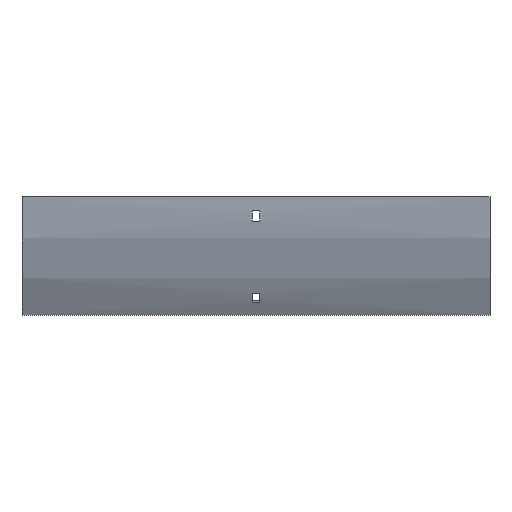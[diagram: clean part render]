
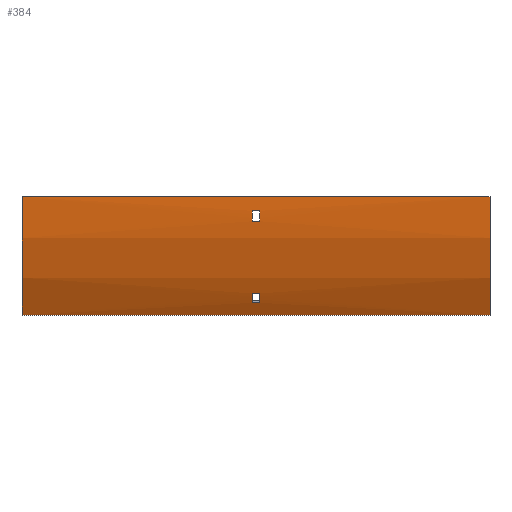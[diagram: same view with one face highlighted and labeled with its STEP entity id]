
A CAD part, front view. The second image highlights one B-rep face of the part: STEP entity #384.
In plain terms, the highlighted cylindrical face has radius 204 mm (diameter 408 mm), a partial arc.
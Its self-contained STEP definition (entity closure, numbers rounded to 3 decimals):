
#7 = DIRECTION ( 'NONE',  ( 1., 0., 0. ) ) ;
#31 = VERTEX_POINT ( 'NONE', #715 ) ;
#43 = ORIENTED_EDGE ( 'NONE', *, *, #1207, .F. ) ;
#51 = EDGE_CURVE ( 'NONE', #799, #109, #1513, .T. ) ;
#59 = DIRECTION ( 'NONE',  ( -1., 0., 0. ) ) ;
#71 = CARTESIAN_POINT ( 'NONE',  ( -3.25, 100., 0. ) ) ;
#107 = EDGE_CURVE ( 'NONE', #657, #799, #836, .T. ) ;
#109 = VERTEX_POINT ( 'NONE', #243 ) ;
#125 = ORIENTED_EDGE ( 'NONE', *, *, #513, .F. ) ;
#129 = CARTESIAN_POINT ( 'NONE',  ( 202., -82.363, -91.431 ) ) ;
#133 = VECTOR ( 'NONE', #1109, 1000. ) ;
#171 = AXIS2_PLACEMENT_3D ( 'NONE', #1124, #363, #896 ) ;
#185 = VERTEX_POINT ( 'NONE', #909 ) ;
#203 = CIRCLE ( 'NONE', #1236, 204. ) ;
#221 = CARTESIAN_POINT ( 'NONE',  ( -3.25, -86.231, -83.272 ) ) ;
#243 = CARTESIAN_POINT ( 'NONE',  ( -202., -76.669, -102. ) ) ;
#263 = VERTEX_POINT ( 'NONE', #434 ) ;
#273 = ORIENTED_EDGE ( 'NONE', *, *, #1521, .T. ) ;
#284 = VECTOR ( 'NONE', #1166, 1000. ) ;
#299 = AXIS2_PLACEMENT_3D ( 'NONE', #1671, #7, #925 ) ;
#316 = ORIENTED_EDGE ( 'NONE', *, *, #1089, .T. ) ;
#317 = DIRECTION ( 'NONE',  ( 1., 0., 0. ) ) ;
#321 = FACE_BOUND ( 'NONE', #654, .T. ) ;
#351 = DIRECTION ( 'NONE',  ( 0., 0., -1. ) ) ;
#363 = DIRECTION ( 'NONE',  ( 1., 0., 0. ) ) ;
#380 = ORIENTED_EDGE ( 'NONE', *, *, #867, .T. ) ;
#384 = ADVANCED_FACE ( 'NONE', ( #471, #321, #1221 ), #1387, .T. ) ;
#420 = CARTESIAN_POINT ( 'NONE',  ( 202., -86.231, -83.272 ) ) ;
#421 = VERTEX_POINT ( 'NONE', #1535 ) ;
#434 = CARTESIAN_POINT ( 'NONE',  ( 3.25, -102.916, -21. ) ) ;
#468 = EDGE_CURVE ( 'NONE', #1393, #109, #203, .T. ) ;
#471 = FACE_OUTER_BOUND ( 'NONE', #687, .T. ) ;
#481 = LINE ( 'NONE', #1006, #614 ) ;
#497 = ORIENTED_EDGE ( 'NONE', *, *, #1335, .T. ) ;
#513 = EDGE_CURVE ( 'NONE', #1168, #185, #1449, .T. ) ;
#535 = ORIENTED_EDGE ( 'NONE', *, *, #468, .T. ) ;
#553 = EDGE_CURVE ( 'NONE', #657, #1393, #1518, .T. ) ;
#564 = ORIENTED_EDGE ( 'NONE', *, *, #1594, .F. ) ;
#584 = DIRECTION ( 'NONE',  ( 0., 0., 1. ) ) ;
#593 = CARTESIAN_POINT ( 'NONE',  ( -3.25, -82.363, -91.431 ) ) ;
#614 = VECTOR ( 'NONE', #1526, 1000. ) ;
#624 = DIRECTION ( 'NONE',  ( 0., 0., 1. ) ) ;
#627 = ORIENTED_EDGE ( 'NONE', *, *, #1105, .F. ) ;
#633 = DIRECTION ( 'NONE',  ( 1., 0., 0. ) ) ;
#654 = EDGE_LOOP ( 'NONE', ( #497, #316, #273, #380 ) ) ;
#657 = VERTEX_POINT ( 'NONE', #927 ) ;
#661 = CARTESIAN_POINT ( 'NONE',  ( -3.25, 100., 0. ) ) ;
#687 = EDGE_LOOP ( 'NONE', ( #535, #1095, #1020, #1608 ) ) ;
#708 = DIRECTION ( 'NONE',  ( 0., 0., -1. ) ) ;
#715 = CARTESIAN_POINT ( 'NONE',  ( 3.25, -103.647, -12. ) ) ;
#751 = CIRCLE ( 'NONE', #1066, 204. ) ;
#756 = CARTESIAN_POINT ( 'NONE',  ( 202., -76.669, -102. ) ) ;
#763 = AXIS2_PLACEMENT_3D ( 'NONE', #907, #1650, #624 ) ;
#799 = VERTEX_POINT ( 'NONE', #756 ) ;
#811 = CARTESIAN_POINT ( 'NONE',  ( -202., -104., 0. ) ) ;
#836 = CIRCLE ( 'NONE', #299, 204. ) ;
#840 = DIRECTION ( 'NONE',  ( 1., 0., 0. ) ) ;
#867 = EDGE_CURVE ( 'NONE', #31, #263, #897, .T. ) ;
#896 = DIRECTION ( 'NONE',  ( 0., 0., -1. ) ) ;
#897 = CIRCLE ( 'NONE', #171, 204. ) ;
#907 = CARTESIAN_POINT ( 'NONE',  ( 3.25, 100., 0. ) ) ;
#909 = CARTESIAN_POINT ( 'NONE',  ( 3.25, -82.363, -91.431 ) ) ;
#925 = DIRECTION ( 'NONE',  ( 0., 0., -1. ) ) ;
#927 = CARTESIAN_POINT ( 'NONE',  ( 202., -104., 0. ) ) ;
#998 = CARTESIAN_POINT ( 'NONE',  ( -3.25, -102.916, -21. ) ) ;
#1001 = VERTEX_POINT ( 'NONE', #1149 ) ;
#1006 = CARTESIAN_POINT ( 'NONE',  ( 202., -102.916, -21. ) ) ;
#1020 = ORIENTED_EDGE ( 'NONE', *, *, #107, .F. ) ;
#1060 = AXIS2_PLACEMENT_3D ( 'NONE', #1367, #59, #584 ) ;
#1066 = AXIS2_PLACEMENT_3D ( 'NONE', #71, #633, #351 ) ;
#1071 = LINE ( 'NONE', #420, #284 ) ;
#1085 = LINE ( 'NONE', #1371, #1291 ) ;
#1089 = EDGE_CURVE ( 'NONE', #1254, #421, #1227, .T. ) ;
#1095 = ORIENTED_EDGE ( 'NONE', *, *, #51, .F. ) ;
#1103 = CARTESIAN_POINT ( 'NONE',  ( 202., -76.669, -102. ) ) ;
#1105 = EDGE_CURVE ( 'NONE', #1001, #1332, #1071, .T. ) ;
#1109 = DIRECTION ( 'NONE',  ( -1., 0., 0. ) ) ;
#1124 = CARTESIAN_POINT ( 'NONE',  ( 3.25, 100., 0. ) ) ;
#1149 = CARTESIAN_POINT ( 'NONE',  ( 3.25, -86.231, -83.272 ) ) ;
#1166 = DIRECTION ( 'NONE',  ( -1., 0., 0. ) ) ;
#1168 = VERTEX_POINT ( 'NONE', #593 ) ;
#1207 = EDGE_CURVE ( 'NONE', #185, #1001, #1631, .T. ) ;
#1208 = DIRECTION ( 'NONE',  ( 1., 0., 0. ) ) ;
#1216 = CARTESIAN_POINT ( 'NONE',  ( -202., 100., 0. ) ) ;
#1221 = FACE_BOUND ( 'NONE', #1313, .T. ) ;
#1227 = CIRCLE ( 'NONE', #1546, 204. ) ;
#1236 = AXIS2_PLACEMENT_3D ( 'NONE', #1216, #317, #708 ) ;
#1254 = VERTEX_POINT ( 'NONE', #998 ) ;
#1291 = VECTOR ( 'NONE', #840, 1000. ) ;
#1313 = EDGE_LOOP ( 'NONE', ( #564, #627, #43, #125 ) ) ;
#1332 = VERTEX_POINT ( 'NONE', #221 ) ;
#1335 = EDGE_CURVE ( 'NONE', #263, #1254, #481, .T. ) ;
#1363 = VECTOR ( 'NONE', #1208, 1000. ) ;
#1367 = CARTESIAN_POINT ( 'NONE',  ( 202., 100., 0. ) ) ;
#1371 = CARTESIAN_POINT ( 'NONE',  ( 202., -103.647, -12. ) ) ;
#1387 = CYLINDRICAL_SURFACE ( 'NONE', #1060, 204. ) ;
#1393 = VERTEX_POINT ( 'NONE', #811 ) ;
#1407 = DIRECTION ( 'NONE',  ( -1., 0., 0. ) ) ;
#1449 = LINE ( 'NONE', #129, #1363 ) ;
#1452 = DIRECTION ( 'NONE',  ( 0., 0., 1. ) ) ;
#1473 = VECTOR ( 'NONE', #1407, 1000. ) ;
#1513 = LINE ( 'NONE', #1103, #133 ) ;
#1518 = LINE ( 'NONE', #1646, #1473 ) ;
#1521 = EDGE_CURVE ( 'NONE', #421, #31, #1085, .T. ) ;
#1526 = DIRECTION ( 'NONE',  ( -1., 0., 0. ) ) ;
#1535 = CARTESIAN_POINT ( 'NONE',  ( -3.25, -103.647, -12. ) ) ;
#1546 = AXIS2_PLACEMENT_3D ( 'NONE', #661, #1568, #1452 ) ;
#1568 = DIRECTION ( 'NONE',  ( -1., 0., 0. ) ) ;
#1594 = EDGE_CURVE ( 'NONE', #1332, #1168, #751, .T. ) ;
#1608 = ORIENTED_EDGE ( 'NONE', *, *, #553, .T. ) ;
#1631 = CIRCLE ( 'NONE', #763, 204. ) ;
#1646 = CARTESIAN_POINT ( 'NONE',  ( 202., -104., 0. ) ) ;
#1650 = DIRECTION ( 'NONE',  ( -1., 0., 0. ) ) ;
#1671 = CARTESIAN_POINT ( 'NONE',  ( 202., 100., 0. ) ) ;
